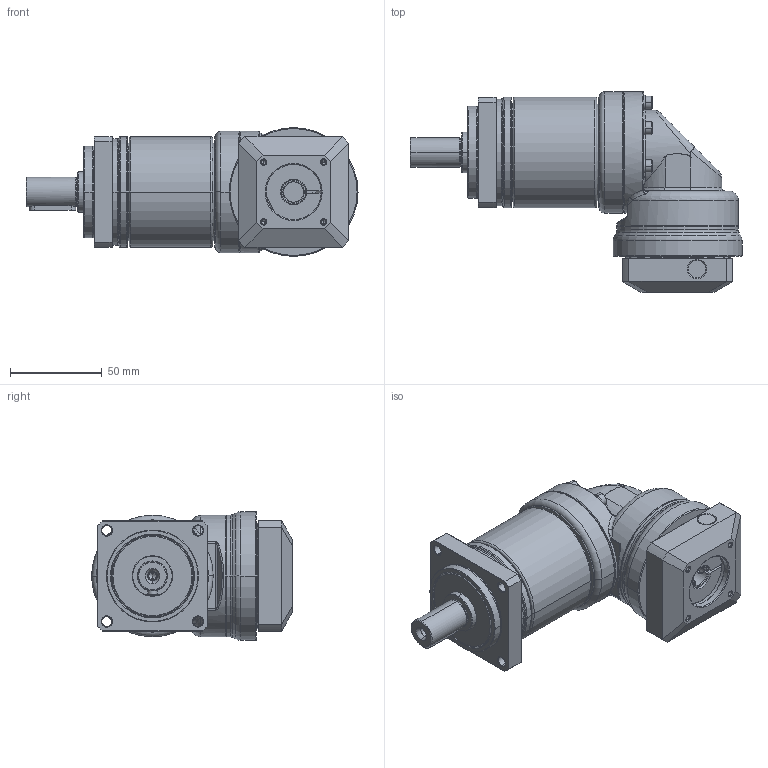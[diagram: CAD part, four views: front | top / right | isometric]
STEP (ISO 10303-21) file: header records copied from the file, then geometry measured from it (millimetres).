
FILE_DESCRIPTION((''),'2;1');
FILE_NAME('PA2R-060_2ST_11-P0411200101_ASM','2016-05-13T',('d01943'),(''),'PRO/ENGINEER BY PARAMETRIC TECHNOLOGY CORPORATION, 2008410','PRO/ENGINEER BY PARAMETRIC TECHNOLOGY CORPORATION, 2008410','');
FILE_SCHEMA(('CONFIG_CONTROL_DESIGN'));
Length unit declared in the file: millimetre
Products named in the file (12): P1327210001; P0251200001; P0350200001; P1349200001; P1017200001; P0713201001; P0503200005; P1350200101; P0411200101; P1702300001; 2111B104020; PA2R-060_2ST_11-P0411200101_ASM
Assembly tree (16 placements, depth 2):
  PA2R-060_2ST_11-P0411200101_ASM
    P1327210001
    P0251200001
    P0350200001
    P1349200001
    P1017200001
    P0713201001
    P0503200005
    P1350200101
    P0411200101
    P1702300001
    2111B104020  x6
Bounding box: 180.5 x 109 x 70 mm (x, y, z)
Volume: 351275.2 mm3; surface area: 114131.9 mm2
Topology: 16 solids, 16 shells, 823 faces, 1804 edges, 1041 vertices
Faces by surface type: cylinder 248, cone 236, plane 203, torus 104, bspline 32
Entity records: 23775 total; most frequent: CARTESIAN_POINT 9005, DIRECTION 3281, ORIENTED_EDGE 2856, EDGE_CURVE 1428, AXIS2_PLACEMENT_3D 1383, VERTEX_POINT 841, EDGE_LOOP 745, CIRCLE 729
